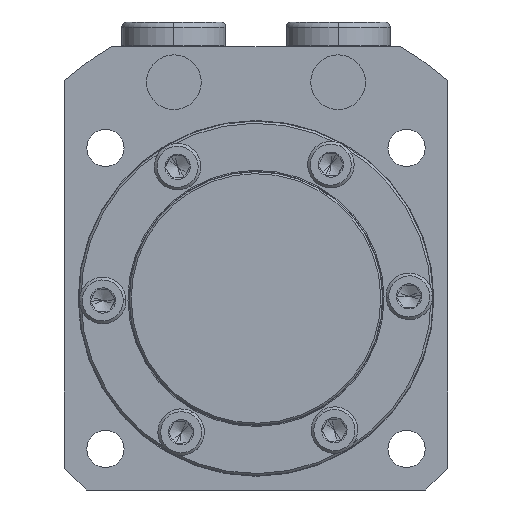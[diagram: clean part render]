
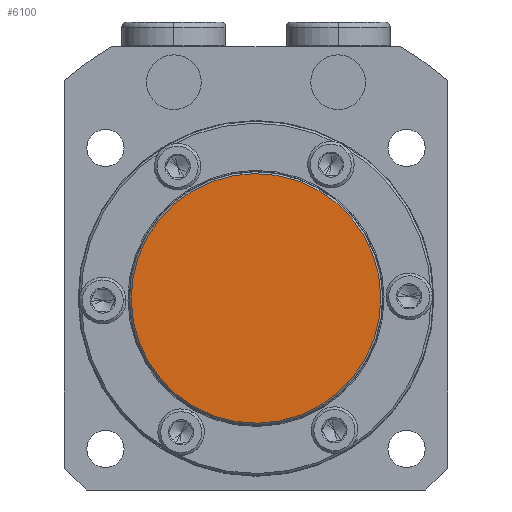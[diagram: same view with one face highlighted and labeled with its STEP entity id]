
A CAD part, front view. The second image highlights one B-rep face of the part: STEP entity #6100.
In plain terms, the highlighted planar face has unit normal (0, -1, 0).
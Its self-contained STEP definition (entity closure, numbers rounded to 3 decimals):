
#173 = CARTESIAN_POINT ( 'NONE',  ( 0., -10.5, -22.8 ) ) ;
#176 = CARTESIAN_POINT ( 'NONE',  ( 0., -10.5, 22.8 ) ) ;
#823 = CARTESIAN_POINT ( 'NONE',  ( 0., -10.5, 0. ) ) ;
#824 = DIRECTION ( 'NONE',  ( 0., -1., 0. ) ) ;
#825 = DIRECTION ( 'NONE',  ( 0., 0., -1. ) ) ;
#997 = CARTESIAN_POINT ( 'NONE',  ( 0., -10.5, 0. ) ) ;
#998 = DIRECTION ( 'NONE',  ( 0., -1., 0. ) ) ;
#999 = DIRECTION ( 'NONE',  ( 0., 0., -1. ) ) ;
#1100 = CIRCLE ( 'NONE', #1103, 22.8 ) ;
#1103 = AXIS2_PLACEMENT_3D ( 'NONE', #997, #998, #999 ) ;
#3547 = ORIENTED_EDGE ( 'NONE', *, *, #7038, .T. ) ;
#3548 = ORIENTED_EDGE ( 'NONE', *, *, #6980, .T. ) ;
#5103 = CARTESIAN_POINT ( 'NONE',  ( 0., -10.5, 0. ) ) ;
#5127 = FACE_OUTER_BOUND ( 'NONE', #6830, .T. ) ;
#5128 = PLANE ( 'NONE',  #5962 ) ;
#5131 = DIRECTION ( 'NONE',  ( 0., -1., 0. ) ) ;
#5132 = DIRECTION ( 'NONE',  ( 0., 0., -1. ) ) ;
#5651 = CIRCLE ( 'NONE', #5656, 22.8 ) ;
#5656 = AXIS2_PLACEMENT_3D ( 'NONE', #823, #824, #825 ) ;
#5962 = AXIS2_PLACEMENT_3D ( 'NONE', #5103, #5131, #5132 ) ;
#6100 = ADVANCED_FACE ( 'NONE', ( #5127 ), #5128, .T. ) ;
#6732 = VERTEX_POINT ( 'NONE', #173 ) ;
#6735 = VERTEX_POINT ( 'NONE', #176 ) ;
#6830 = EDGE_LOOP ( 'NONE', ( #3547, #3548 ) ) ;
#6980 = EDGE_CURVE ( 'NONE', #6732, #6735, #5651, .T. ) ;
#7038 = EDGE_CURVE ( 'NONE', #6735, #6732, #1100, .T. ) ;
